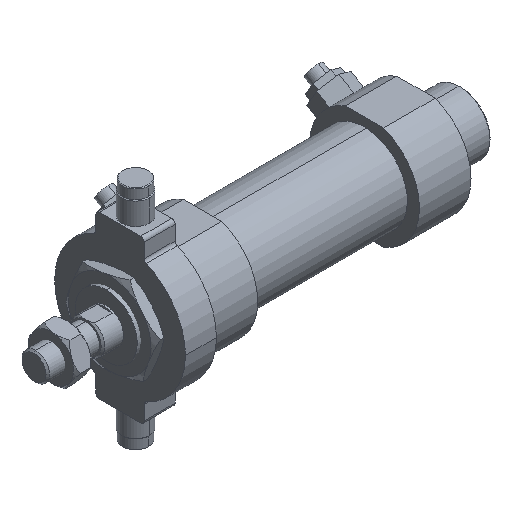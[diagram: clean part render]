
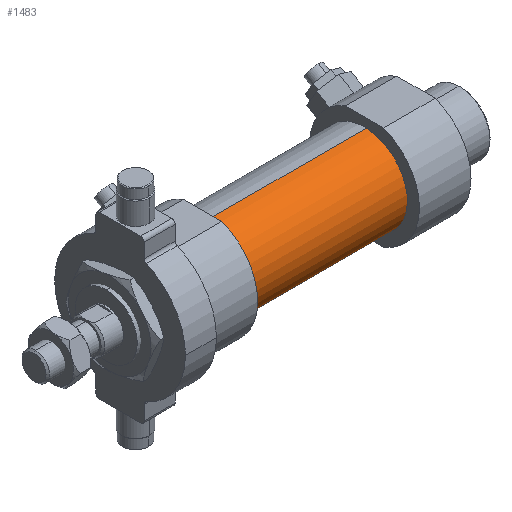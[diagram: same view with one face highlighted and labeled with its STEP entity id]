
A CAD part, isometric view. The second image highlights one B-rep face of the part: STEP entity #1483.
In plain terms, the highlighted cylindrical face has radius 12.5 mm (diameter 25 mm), a partial arc.
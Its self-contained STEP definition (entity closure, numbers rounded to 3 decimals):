
#223 = DIRECTION ( 'NONE',  ( 0., 0., -1. ) ) ;
#244 = AXIS2_PLACEMENT_3D ( 'NONE', #2097, #1604, #2369 ) ;
#404 = CARTESIAN_POINT ( 'NONE',  ( 23.5, 0., -12.5 ) ) ;
#558 = CARTESIAN_POINT ( 'NONE',  ( 23.5, 0., -12.5 ) ) ;
#656 = DIRECTION ( 'NONE',  ( -1., 0., 0. ) ) ;
#933 = LINE ( 'NONE', #3187, #2592 ) ;
#1162 = DIRECTION ( 'NONE',  ( -1., 0., 0. ) ) ;
#1225 = EDGE_CURVE ( 'NONE', #3073, #1454, #1829, .T. ) ;
#1454 = VERTEX_POINT ( 'NONE', #558 ) ;
#1483 = ADVANCED_FACE ( 'NONE', ( #2108 ), #5243, .T. ) ;
#1602 = CARTESIAN_POINT ( 'NONE',  ( -23.5, 0., 12.5 ) ) ;
#1604 = DIRECTION ( 'NONE',  ( 1., 0., 0. ) ) ;
#1698 = AXIS2_PLACEMENT_3D ( 'NONE', #4973, #6020, #5714 ) ;
#1829 = CIRCLE ( 'NONE', #3451, 12.5 ) ;
#1895 = VECTOR ( 'NONE', #1162, 1000. ) ;
#2097 = CARTESIAN_POINT ( 'NONE',  ( -23.5, 0., 0. ) ) ;
#2108 = FACE_OUTER_BOUND ( 'NONE', #3040, .T. ) ;
#2197 = ORIENTED_EDGE ( 'NONE', *, *, #1225, .F. ) ;
#2335 = ORIENTED_EDGE ( 'NONE', *, *, #4016, .F. ) ;
#2369 = DIRECTION ( 'NONE',  ( 0., 0., -1. ) ) ;
#2394 = VERTEX_POINT ( 'NONE', #3806 ) ;
#2592 = VECTOR ( 'NONE', #656, 1000. ) ;
#2818 = DIRECTION ( 'NONE',  ( 1., 0., 0. ) ) ;
#2909 = CIRCLE ( 'NONE', #244, 12.5 ) ;
#3034 = CARTESIAN_POINT ( 'NONE',  ( 23.5, 0., 0. ) ) ;
#3040 = EDGE_LOOP ( 'NONE', ( #2335, #2197, #3507, #4703 ) ) ;
#3073 = VERTEX_POINT ( 'NONE', #4207 ) ;
#3187 = CARTESIAN_POINT ( 'NONE',  ( 23.5, 0., 12.5 ) ) ;
#3451 = AXIS2_PLACEMENT_3D ( 'NONE', #3034, #2818, #223 ) ;
#3507 = ORIENTED_EDGE ( 'NONE', *, *, #5262, .T. ) ;
#3806 = CARTESIAN_POINT ( 'NONE',  ( -23.5, 0., -12.5 ) ) ;
#4016 = EDGE_CURVE ( 'NONE', #1454, #2394, #4637, .T. ) ;
#4207 = CARTESIAN_POINT ( 'NONE',  ( 23.5, 0., 12.5 ) ) ;
#4487 = EDGE_CURVE ( 'NONE', #5297, #2394, #2909, .T. ) ;
#4637 = LINE ( 'NONE', #404, #1895 ) ;
#4703 = ORIENTED_EDGE ( 'NONE', *, *, #4487, .T. ) ;
#4973 = CARTESIAN_POINT ( 'NONE',  ( 23.5, 0., 0. ) ) ;
#5243 = CYLINDRICAL_SURFACE ( 'NONE', #1698, 12.5 ) ;
#5262 = EDGE_CURVE ( 'NONE', #3073, #5297, #933, .T. ) ;
#5297 = VERTEX_POINT ( 'NONE', #1602 ) ;
#5714 = DIRECTION ( 'NONE',  ( 0., 0., 1. ) ) ;
#6020 = DIRECTION ( 'NONE',  ( -1., 0., 0. ) ) ;
